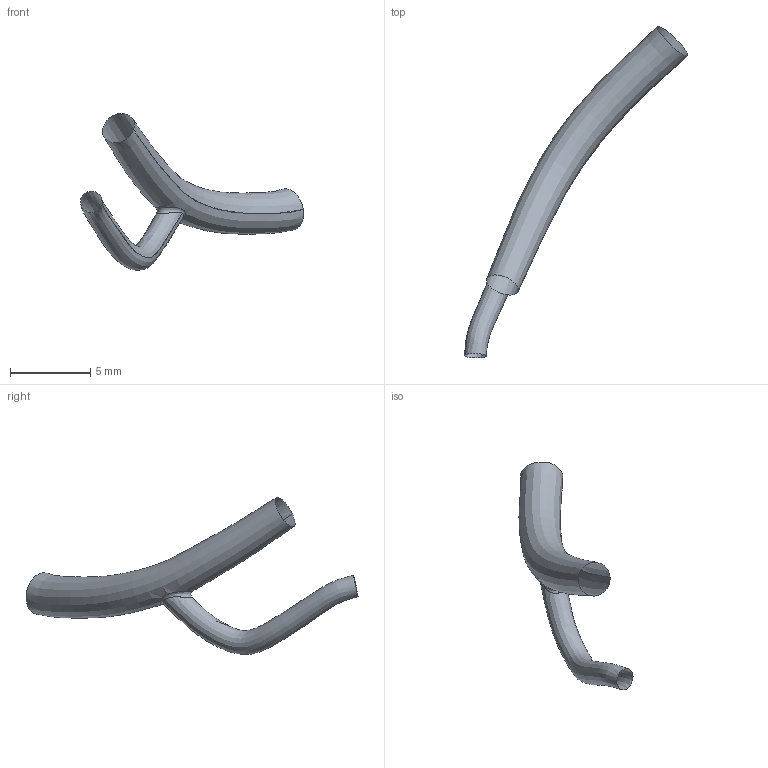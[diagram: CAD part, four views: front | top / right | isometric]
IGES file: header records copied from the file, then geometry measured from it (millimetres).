
Global section: file name: C:\Documents and Settings\Administrator\Desktop\FDA-Pig\Domestic LCA\Pig_000010\om.es.igs; native system: Rhinoceros ( May 19 2006 ); preprocessor: Trout Lake IGES 012 May 19 2006; date: 111205.183836; units: centimetre
Bounding box: 13.92 x 20.71 x 9.79 mm (x, y, z)
Surface area: 216.5 mm2 (no closed solid volume)
Topology: 0 solids, 0 shells, 3 faces, 31 edges, 28 vertices
Faces by surface type: bspline 3
